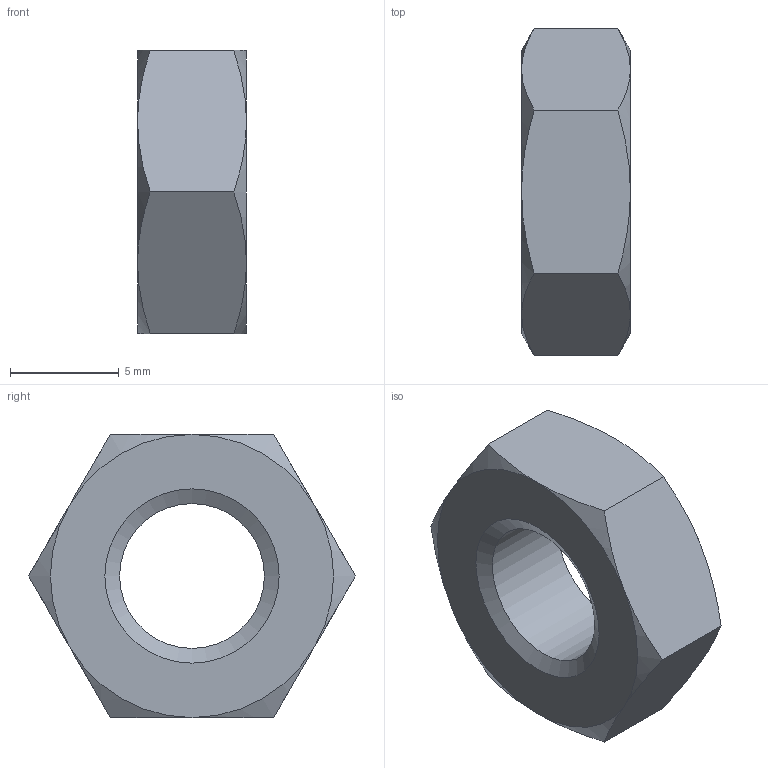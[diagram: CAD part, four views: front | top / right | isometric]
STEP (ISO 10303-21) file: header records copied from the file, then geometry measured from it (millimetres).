
FILE_DESCRIPTION(/* description */ ('6각 너트'),/* implementation_level */ '2;1');
FILE_NAME(/* name */ '',/* time_stamp */ '2026-08-27T17:05:12+09:00',/* author */ ('jhkim'),/* organization */ (''),/* preprocessor_version */ 'ST-DEVELOPER v20.1',/* originating_system */ 'Autodesk Inventor 2027',/* authorisation */ '');
FILE_SCHEMA (('AUTOMOTIVE_DESIGN { 1 0 10303 214 3 1 1 }'));
Length unit declared in the file: millimetre
Products named in the file (1): 6각 너트 M8
Bounding box: 5 x 15.01 x 13 mm (x, y, z)
Volume: 547.6 mm3; surface area: 527.7 mm2
Topology: 1 solids, 1 shells, 23 faces, 50 edges, 29 vertices
Faces by surface type: cone 14, plane 8, cylinder 1
Full cylindrical faces by diameter (mm): 6.647 x1
Entity records: 640 total; most frequent: CARTESIAN_POINT 151, ORIENTED_EDGE 100, DIRECTION 91, EDGE_CURVE 50, AXIS2_PLACEMENT_3D 41, VERTEX_POINT 29, EDGE_LOOP 25, FACE_OUTER_BOUND 23
